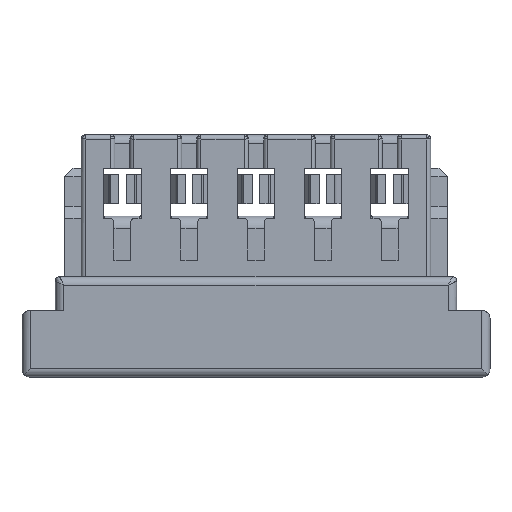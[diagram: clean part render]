
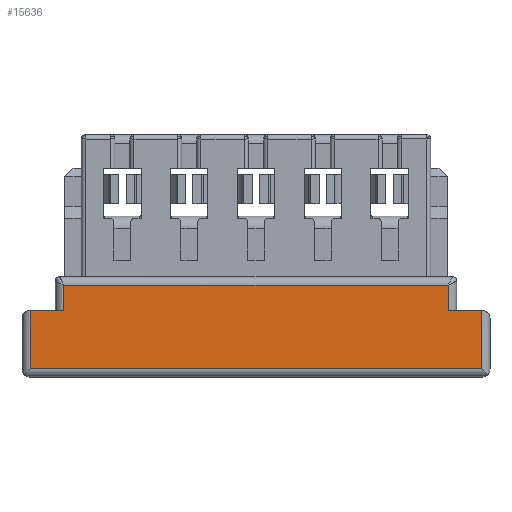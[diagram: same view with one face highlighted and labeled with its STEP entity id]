
A CAD part, front view. The second image highlights one B-rep face of the part: STEP entity #15636.
In plain terms, the highlighted planar face has unit normal (0, -1, 0).
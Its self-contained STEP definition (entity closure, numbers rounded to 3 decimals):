
#389=DIRECTION('',(-1.,0.,0.));
#390=VECTOR('',#389,5.4);
#391=CARTESIAN_POINT('',(-11.3,0.,0.1));
#392=LINE('',#391,#390);
#426=DIRECTION('',(0.,0.,-1.));
#427=VECTOR('',#426,0.7);
#428=CARTESIAN_POINT('',(-11.3,0.,0.8));
#429=LINE('',#428,#427);
#573=DIRECTION('',(-1.,0.,0.));
#574=VECTOR('',#573,0.4);
#575=CARTESIAN_POINT('',(-11.3,0.,0.8));
#576=LINE('',#575,#574);
#581=CARTESIAN_POINT('',(-16.7,0.,0.8));
#596=DIRECTION('',(0.,0.,1.));
#597=VECTOR('',#596,0.7);
#598=CARTESIAN_POINT('',(-16.7,0.,0.1));
#599=LINE('',#598,#597);
#657=DIRECTION('',(1.,0.,0.));
#658=VECTOR('',#657,0.4);
#659=CARTESIAN_POINT('',(-16.7,0.,0.8));
#660=LINE('',#659,#658);
#2075=DIRECTION('',(1.,0.,0.));
#2076=VECTOR('',#2075,4.6);
#2077=CARTESIAN_POINT('',(-16.3,0.,1.1));
#2078=LINE('',#2077,#2076);
#2087=CARTESIAN_POINT('',(-16.3,0.,1.1));
#2093=CARTESIAN_POINT('',(-11.7,0.,1.1));
#7173=DIRECTION('',(0.,0.,-1.));
#7174=VECTOR('',#7173,0.3);
#7175=CARTESIAN_POINT('',(-11.7,0.,1.1));
#7176=LINE('',#7175,#7174);
#10762=DIRECTION('',(0.,0.,1.));
#10763=VECTOR('',#10762,0.3);
#10764=CARTESIAN_POINT('',(-16.3,0.,0.8));
#10765=LINE('',#10764,#10763);
#13167=VERTEX_POINT('',#581);
#13169=CARTESIAN_POINT('',(-16.7,0.,0.1));
#13170=VERTEX_POINT('',#13169);
#13297=VERTEX_POINT('',#2087);
#14070=CARTESIAN_POINT('',(-16.3,0.,0.8));
#14071=VERTEX_POINT('',#14070);
#14076=VERTEX_POINT('',#2093);
#14586=CARTESIAN_POINT('',(-11.7,0.,0.8));
#14587=VERTEX_POINT('',#14586);
#14590=CARTESIAN_POINT('',(-11.3,0.,0.8));
#14591=VERTEX_POINT('',#14590);
#14592=CARTESIAN_POINT('',(-11.3,0.,0.1));
#14593=VERTEX_POINT('',#14592);
#15616=CARTESIAN_POINT('',(-6.,0.,0.8));
#15617=DIRECTION('',(0.,1.,0.));
#15618=DIRECTION('',(0.,0.,-1.));
#15619=AXIS2_PLACEMENT_3D('',#15616,#15617,#15618);
#15620=PLANE('',#15619);
#15621=ORIENTED_EDGE('',*,*,#15405,.T.);
#15623=ORIENTED_EDGE('',*,*,#15622,.T.);
#15625=ORIENTED_EDGE('',*,*,#15624,.T.);
#15627=ORIENTED_EDGE('',*,*,#15626,.T.);
#15629=ORIENTED_EDGE('',*,*,#15628,.T.);
#15631=ORIENTED_EDGE('',*,*,#15630,.T.);
#15632=ORIENTED_EDGE('',*,*,#15605,.F.);
#15633=ORIENTED_EDGE('',*,*,#15441,.T.);
#15634=EDGE_LOOP('',(#15621,#15623,#15625,#15627,#15629,#15631,#15632,#15633));
#15635=FACE_OUTER_BOUND('',#15634,.F.);
#15636=ADVANCED_FACE('',(#15635),#15620,.F.);
#15405=EDGE_CURVE('',#14593,#13170,#392,.T.);
#15441=EDGE_CURVE('',#14591,#14593,#429,.T.);
#15605=EDGE_CURVE('',#14591,#14587,#576,.T.);
#15622=EDGE_CURVE('',#13170,#13167,#599,.T.);
#15624=EDGE_CURVE('',#13167,#14071,#660,.T.);
#15626=EDGE_CURVE('',#14071,#13297,#10765,.T.);
#15628=EDGE_CURVE('',#13297,#14076,#2078,.T.);
#15630=EDGE_CURVE('',#14076,#14587,#7176,.T.);
